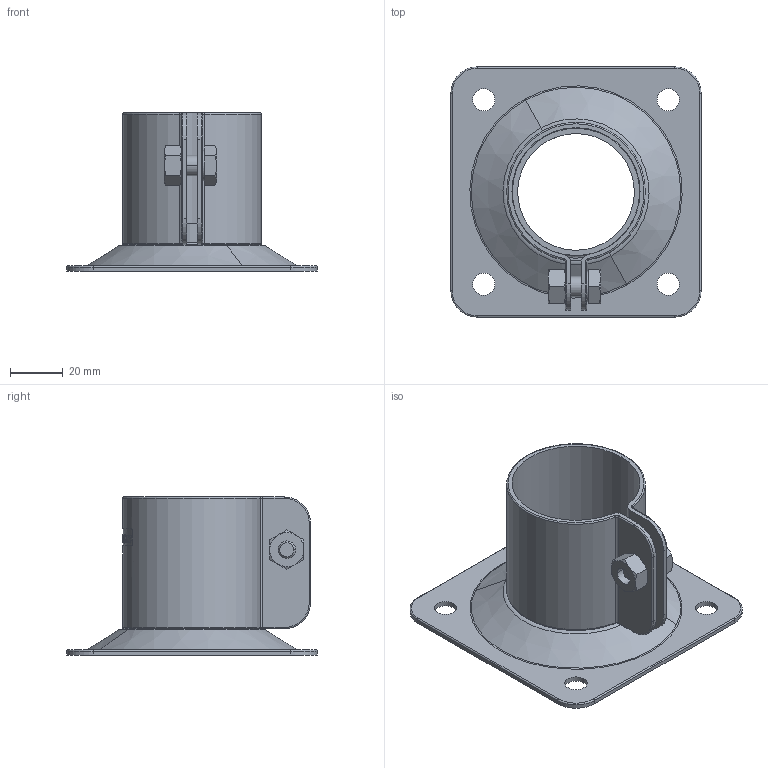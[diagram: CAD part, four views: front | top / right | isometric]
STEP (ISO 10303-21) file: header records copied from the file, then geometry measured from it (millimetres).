
FILE_DESCRIPTION(('CATIA V5 STEP Exchange'),'2;1');
FILE_NAME('X:\CODICI MOVEX\3D per clienti\Carlo De Lauri\28-08-2013\P42601_01.stp','2013-08-28T13:14:02+00:00',('none'),('none'),'CATIA Version 5 Release 21 SP 1 (IN-10)','CATIA V5 STEP AP203','none');
FILE_SCHEMA(('CONFIG_CONTROL_DESIGN'));
Length unit declared in the file: millimetre
Products named in the file (1): Product1
Assembly tree (3 placements, depth 2):
  Product1
    #58
    #18011
    #18595
Bounding box: 95 x 95 x 60 mm (x, y, z)
Volume: 37099 mm3; surface area: 39647.2 mm2
Topology: 4 solids, 4 shells, 567 faces, 1598 edges, 1052 vertices
Faces by surface type: plane 469, cylinder 58, torus 28, cone 12
Entity records: 19126 total; most frequent: CARTESIAN_POINT 6317, ORIENTED_EDGE 3196, DIRECTION 1756, EDGE_CURVE 1598, VERTEX_POINT 1052, B_SPLINE_CURVE_WITH_KNOTS 896, AXIS2_PLACEMENT_3D 741, EDGE_LOOP 596
